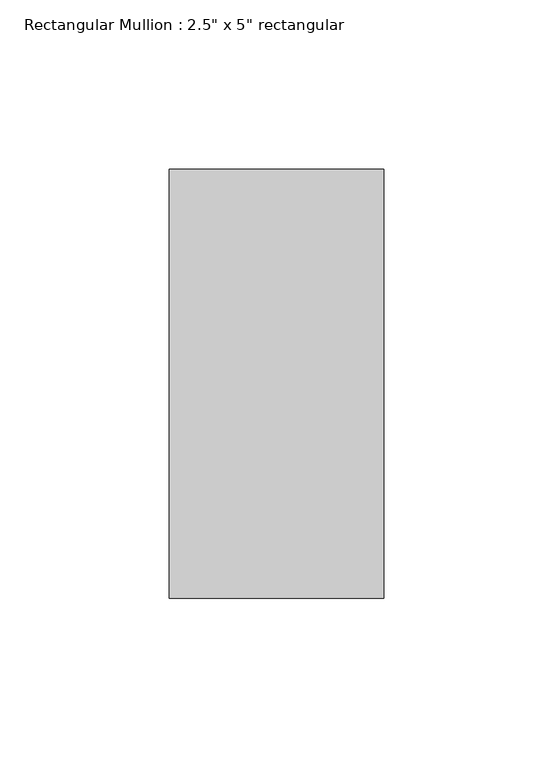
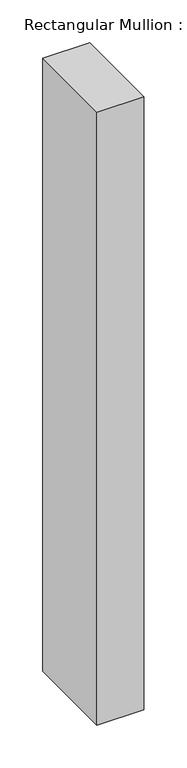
"""IFC4 building model written with IfcOpenShell, lengths in millimetres: member geometry."""

from ifc_helpers import new_model, si_unit, frame, origin, place, context, project, spatial, polyline, outline, extrude, source, transform, mapped, element, save


def member_aa254800(model_context):
    return source(origin(), model_context, "Body", "SweptSolid", [
        extrude(outline(polyline([(31.75, 63.5), (31.75, -63.5), (-31.75, -63.5), (-31.75, 63.5), (31.75, 63.5)])), frame((0.0, 0.0, -876.3), z_axis=(0.0, 0.0, 1.0), x_axis=(1.0, 0.0, 0.0)), (0.0, 0.0, 1.0), 876.3),
    ])


if __name__ == "__main__":
    model = new_model("IFC4")
    model_context = context("Model", 3, world=origin())
    ifc_project = project(units=[si_unit("LENGTHUNIT", "METRE", prefix="MILLI")], contexts=[model_context])
    site = spatial("IfcSite", under=ifc_project)
    building = spatial("IfcBuilding", under=site)
    placement = place(None, origin())
    member_shape = member_aa254800(model_context)
    element("IfcMember", 1, ObjectType="Rectangular Mullion : 2.5\" x 5\" rectangular", at=placement, inside=building, context=model_context, shape_type="MappedRepresentation", body=[
        mapped(member_shape, transform((0.0, 0.0, 0.0), x_axis=(1.0, 0.0, 0.0), y_axis=(0.0, 1.0, 0.0), z_axis=(0.0, 0.0, 1.0))),
    ])
    save(model, "model.ifc")
